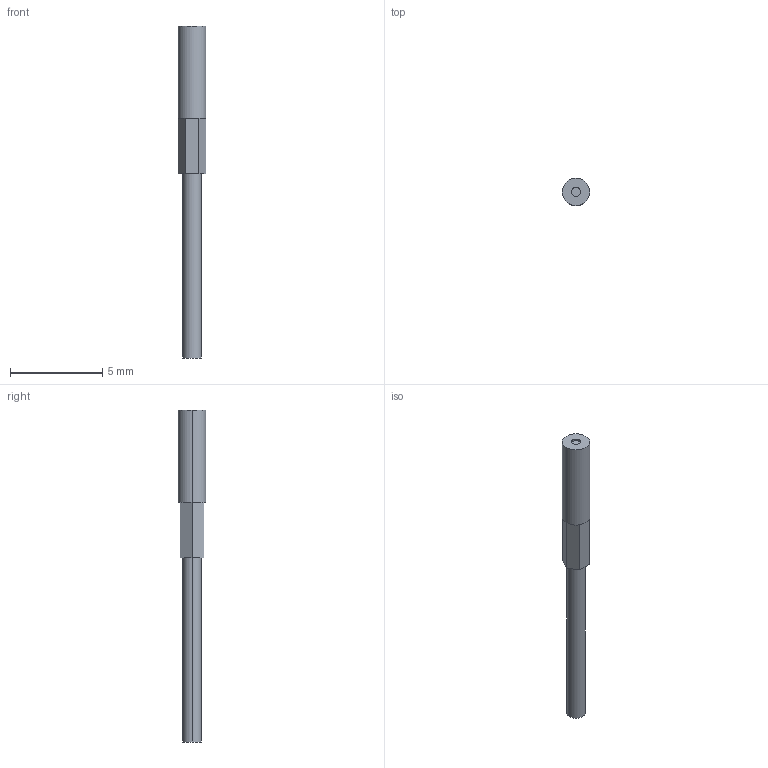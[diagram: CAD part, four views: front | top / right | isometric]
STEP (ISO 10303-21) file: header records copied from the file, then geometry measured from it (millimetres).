
FILE_DESCRIPTION (( 'STEP AP203' ), '1' );
FILE_NAME ('FT-WS4.STEP', '2005-09-08T02:26:57', ( '' ), ( '' ), 'SwSTEP 2.0', 'SolidWorks 2004073', '' );
FILE_SCHEMA (( 'CONFIG_CONTROL_DESIGN' ));
Length unit declared in the file: millimetre
Products named in the file (1): FT-WS4
Bounding box: 1.5 x 1.5 x 18 mm (x, y, z)
Volume: 21.1 mm3; surface area: 72.2 mm2
Topology: 1 solids, 1 shells, 22 faces, 40 edges, 22 vertices
Faces by surface type: plane 16, cylinder 6
Entity records: 605 total; most frequent: DIRECTION 102, CARTESIAN_POINT 85, ORIENTED_EDGE 80, EDGE_CURVE 40, AXIS2_PLACEMENT_3D 39, VECTOR 24, LINE 24, EDGE_LOOP 24
